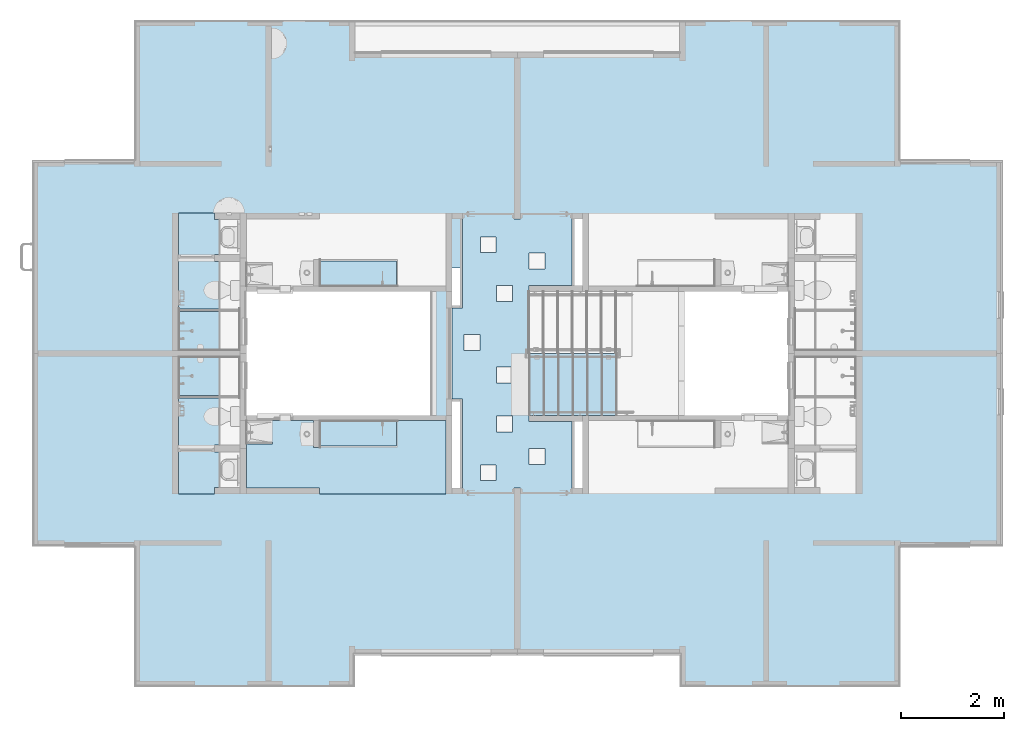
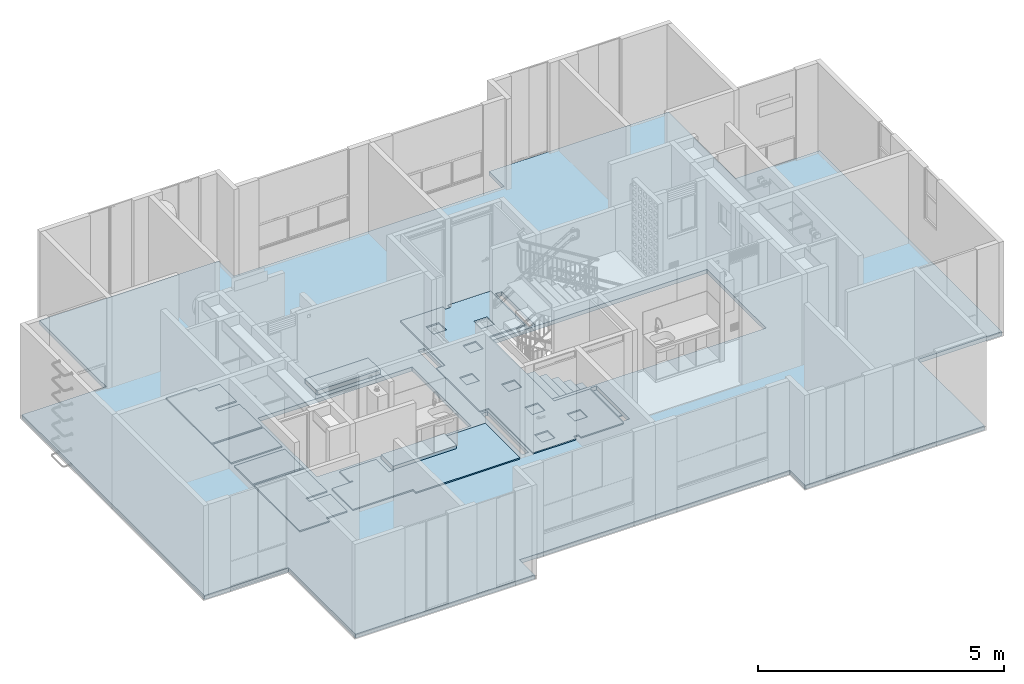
# One storey, part 1 of 51: 13 slabs.
"""IFC4 building model written with IfcOpenShell, lengths in metres."""

from ifc_helpers import new_model, entity, si_unit, converted_unit, derived_unit, direction, frame, origin, place, context, subcontext, project, spatial, indexed_curve, outline, extrude, material, constituent, constituent_set, type_object, element, save


model = new_model("IFC4")

# Units and contexts
model_context = context("Model", 3, precision=1e-05, world=origin(), true_north=direction((6.123031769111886e-17, 1.0)))
body_context = subcontext(model_context, "Body", "Model", "MODEL_VIEW")
ifc_project = project(units=[si_unit("LENGTHUNIT", "METRE"), si_unit("AREAUNIT", "SQUARE_METRE"), si_unit("VOLUMEUNIT", "CUBIC_METRE"), converted_unit("PLANEANGLEUNIT", "DEGREE", entity("IfcRatioMeasure", 0.017453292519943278), si_unit("PLANEANGLEUNIT", "RADIAN"), dimensions=[0, 0, 0, 0, 0, 0, 0]), si_unit("MASSUNIT", "GRAM", prefix="KILO"), derived_unit("MASSDENSITYUNIT", [(si_unit("MASSUNIT", "GRAM", prefix="KILO"), 1), (si_unit("LENGTHUNIT", "METRE"), -3)]), derived_unit("IONCONCENTRATIONUNIT", [(si_unit("MASSUNIT", "GRAM", prefix="KILO"), 1), (si_unit("LENGTHUNIT", "METRE"), -3)]), derived_unit("MOMENTOFINERTIAUNIT", [(si_unit("LENGTHUNIT", "METRE"), 4)]), si_unit("TIMEUNIT", "SECOND"), si_unit("FREQUENCYUNIT", "HERTZ"), si_unit("THERMODYNAMICTEMPERATUREUNIT", "DEGREE_CELSIUS"), derived_unit("THERMALTRANSMITTANCEUNIT", [(si_unit("MASSUNIT", "GRAM", prefix="KILO"), 1), (si_unit("THERMODYNAMICTEMPERATUREUNIT", "KELVIN"), -1), (si_unit("TIMEUNIT", "SECOND"), -3)]), derived_unit("THERMALCONDUCTANCEUNIT", [(si_unit("MASSUNIT", "GRAM", prefix="KILO"), 1), (si_unit("THERMODYNAMICTEMPERATUREUNIT", "KELVIN"), -1), (si_unit("TIMEUNIT", "SECOND"), -3), (si_unit("LENGTHUNIT", "METRE"), 1)]), derived_unit("VOLUMETRICFLOWRATEUNIT", [(si_unit("LENGTHUNIT", "METRE"), 3), (si_unit("TIMEUNIT", "SECOND"), -1)]), derived_unit("MASSFLOWRATEUNIT", [(si_unit("MASSUNIT", "GRAM", prefix="KILO"), 1), (si_unit("TIMEUNIT", "SECOND"), -1)]), derived_unit("ROTATIONALFREQUENCYUNIT", [(si_unit("TIMEUNIT", "SECOND"), -1)]), si_unit("ELECTRICCURRENTUNIT", "AMPERE"), si_unit("ELECTRICVOLTAGEUNIT", "VOLT"), si_unit("POWERUNIT", "WATT"), si_unit("FORCEUNIT", "NEWTON", prefix="KILO"), si_unit("ILLUMINANCEUNIT", "LUX"), si_unit("LUMINOUSFLUXUNIT", "LUMEN"), si_unit("LUMINOUSINTENSITYUNIT", "CANDELA"), derived_unit("USERDEFINED", [(si_unit("MASSUNIT", "GRAM", prefix="KILO"), -1), (si_unit("LENGTHUNIT", "METRE"), -2), (si_unit("TIMEUNIT", "SECOND"), 3), (si_unit("LUMINOUSFLUXUNIT", "LUMEN"), 1)]), derived_unit("USERDEFINED", [(si_unit("MASSUNIT", "GRAM", prefix="KILO"), 1), (si_unit("TIMEUNIT", "SECOND"), -3), (si_unit("LENGTHUNIT", "METRE"), 3), (si_unit("ELECTRICCURRENTUNIT", "AMPERE"), -2)]), derived_unit("SOUNDPOWERUNIT", [(si_unit("MASSUNIT", "GRAM", prefix="KILO"), 1), (si_unit("TIMEUNIT", "SECOND"), -3), (si_unit("LENGTHUNIT", "METRE"), 2)]), derived_unit("SOUNDPRESSUREUNIT", [(si_unit("MASSUNIT", "GRAM", prefix="KILO"), 1), (si_unit("LENGTHUNIT", "METRE"), -1), (si_unit("TIMEUNIT", "SECOND"), -2)]), derived_unit("LINEARVELOCITYUNIT", [(si_unit("LENGTHUNIT", "METRE"), 1), (si_unit("TIMEUNIT", "SECOND"), -1)]), si_unit("PRESSUREUNIT", "PASCAL"), derived_unit("USERDEFINED", [(si_unit("MASSUNIT", "GRAM", prefix="KILO"), 1), (si_unit("LENGTHUNIT", "METRE"), -2), (si_unit("TIMEUNIT", "SECOND"), -2)]), derived_unit("LINEARFORCEUNIT", [(si_unit("MASSUNIT", "GRAM", prefix="KILO"), 1), (si_unit("TIMEUNIT", "SECOND"), -2)]), derived_unit("PLANARFORCEUNIT", [(si_unit("MASSUNIT", "GRAM", prefix="KILO"), 1), (si_unit("LENGTHUNIT", "METRE"), -1), (si_unit("TIMEUNIT", "SECOND"), -2)]), derived_unit("SPECIFICHEATCAPACITYUNIT", [(si_unit("THERMODYNAMICTEMPERATUREUNIT", "KELVIN"), -1), (si_unit("LENGTHUNIT", "METRE"), 2), (si_unit("TIMEUNIT", "SECOND"), -2)]), derived_unit("HEATINGVALUEUNIT", [(si_unit("LENGTHUNIT", "METRE"), 2), (si_unit("TIMEUNIT", "SECOND"), -2)]), derived_unit("VAPORPERMEABILITYUNIT", [(si_unit("LENGTHUNIT", "METRE"), -1), (si_unit("TIMEUNIT", "SECOND"), 1)]), derived_unit("DYNAMICVISCOSITYUNIT", [(si_unit("MASSUNIT", "GRAM", prefix="KILO"), 1), (si_unit("TIMEUNIT", "SECOND"), -1), (si_unit("LENGTHUNIT", "METRE"), -1)]), derived_unit("THERMALEXPANSIONCOEFFICIENTUNIT", [(si_unit("THERMODYNAMICTEMPERATUREUNIT", "KELVIN"), -1)]), derived_unit("MODULUSOFELASTICITYUNIT", [(si_unit("MASSUNIT", "GRAM", prefix="KILO"), 1), (si_unit("LENGTHUNIT", "METRE"), -1), (si_unit("TIMEUNIT", "SECOND"), -2)]), derived_unit("ISOTHERMALMOISTURECAPACITYUNIT", [(si_unit("LENGTHUNIT", "METRE"), 3), (si_unit("MASSUNIT", "GRAM", prefix="KILO"), -1)]), derived_unit("MOISTUREDIFFUSIVITYUNIT", [(si_unit("TIMEUNIT", "SECOND"), -1), (si_unit("LENGTHUNIT", "METRE"), 2)])], contexts=[model_context])

# Site, building, storey
site_placement = place(None, origin())
site = spatial("IfcSite", under=ifc_project, at=site_placement, Name="Default", CompositionType="ELEMENT")
building_placement = place(site_placement, origin())
building = spatial("IfcBuilding", under=site, at=building_placement, CompositionType="ELEMENT")
storey_placement = place(building_placement, frame((0.0, 0.0, 2.350000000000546)))
storey = spatial("IfcBuildingStorey", under=building, at=storey_placement, Name="Nivel 2", CompositionType="ELEMENT", Elevation=2.350000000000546)

# Slabs
ifc_material_1 = material(Name="Ceramica 0.45m x 0.45m gris", Category="Materials")
ifc_constituent_1 = constituent(ifc_material_1, Name="Ceramica 0.45m x 0.45m gris", Category="Materials")
ifc_material_2 = material(Name="Mortero de pega", Category="Materials")
ifc_constituent_2 = constituent(ifc_material_2, Name="Mortero de pega", Category="Materials")
ifc_constituent_set_1 = constituent_set(constituents=[ifc_constituent_1, ifc_constituent_2], Name="Floor:C2030.20 - 0.45 x 0.45 - Enchape cerámico - Mortero de Pega + Cerámica gris")
slab_type_1 = type_object("IfcSlabType", Name="Floor:C2030.20 - 0.45 x 0.45 - Enchape cerámico - Mortero de Pega + Cerámica gris", PredefinedType="FLOOR", material=ifc_constituent_set_1)
slab_1_placement = place(storey_placement, origin())
element("IfcSlab", 1, at=slab_1_placement, inside=storey, type_object=slab_type_1, material=ifc_constituent_set_1, Name="Floor:C2030.20 - 0.45 x 0.45 - Enchape cerámico - Mortero de Pega + Cerámica gris", ObjectType="Floor:C2030.20 - 0.45 x 0.45 - Enchape cerámico - Mortero de Pega + Cerámica gris", PredefinedType="FLOOR", context=body_context, shape_type="SweptSolid", body=[
    extrude(outline(indexed_curve([(-0.5924994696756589, -0.37499998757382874), (0.5924994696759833, -0.37499998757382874), (0.5924994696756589, 0.37499998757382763), (-0.5924994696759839, 0.37499998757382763), (-0.5924994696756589, -0.37499998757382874)], self_intersect=False)), frame((3.37000052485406, -5.990000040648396, 0.020000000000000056), z_axis=(0.0, 0.0, 1.0), x_axis=(-1.0, 0.0, 0.0)), (0.0, 0.0, 1.0), 0.009999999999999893),
    extrude(outline(indexed_curve([(-0.1950000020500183, -0.060999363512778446), (-0.19500000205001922, 0.4339995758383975), (-1.1099999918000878, 0.4339995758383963), (-1.1099999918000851, -0.7509993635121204), (0.7449999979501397, -0.7509993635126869), (0.7449999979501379, -0.05600042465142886), (0.6199999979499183, -0.056000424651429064), (0.6199999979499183, 0.4339995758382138), (-0.06000000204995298, 0.43399957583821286), (-0.06000000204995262, -0.060999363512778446), (-0.1950000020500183, -0.060999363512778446)], self_intersect=False)), frame((3.528500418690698, -4.455000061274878, 0.020000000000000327), z_axis=(0.0, 0.0, -1.0), x_axis=(0.0, 1.0, 0.0)), (0.0, 0.0, -1.0), 0.009999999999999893),
    extrude(outline(indexed_curve([(-0.7509993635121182, -1.1099999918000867), (0.4339995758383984, -1.1099999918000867), (0.43399957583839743, -0.19500000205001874), (-0.06099936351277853, -0.19500000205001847), (-0.06099936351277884, -0.06000000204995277), (0.43399957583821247, -0.06000000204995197), (0.43399957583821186, 0.6199999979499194), (-0.05600042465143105, 0.6199999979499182), (-0.056000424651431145, 0.7449999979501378), (-0.7509993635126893, 0.7449999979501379), (-0.7509993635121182, -1.1099999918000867)], self_intersect=False)), frame((3.5285004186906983, -4.455000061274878, 0.0)), (0.0, 0.0, 1.0), 0.020000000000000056),
    extrude(outline(indexed_curve([(-0.3749999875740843, -0.5924994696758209), (0.3749999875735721, -0.5924994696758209), (0.37499998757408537, 0.5924994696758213), (-0.374999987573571, 0.5924994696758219), (-0.3749999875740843, -0.5924994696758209)], self_intersect=False)), frame((3.3700005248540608, -5.990000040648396, 0.0), z_axis=(0.0, 0.0, 1.0), x_axis=(0.0, 1.0, 0.0)), (0.0, 0.0, 1.0), 0.020000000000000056),
])
slab_2_placement = place(storey_placement, origin())
element("IfcSlab", 2, at=slab_2_placement, inside=storey, type_object=slab_type_1, material=ifc_constituent_set_1, Name="Floor:C2030.20 - 0.45 x 0.45 - Enchape cerámico - Mortero de Pega + Cerámica gris", ObjectType="Floor:C2030.20 - 0.45 x 0.45 - Enchape cerámico - Mortero de Pega + Cerámica gris", PredefinedType="FLOOR", context=body_context, shape_type="SweptSolid", body=[
    extrude(outline(indexed_curve([(-0.5924994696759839, -0.37499998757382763), (0.5924994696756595, -0.37499998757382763), (0.5924994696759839, 0.37499998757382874), (-0.5924994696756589, 0.37499998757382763), (-0.5924994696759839, -0.37499998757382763)], self_intersect=False)), frame((3.3700005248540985, -6.8600000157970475, 0.020000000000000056), z_axis=(0.0, 0.0, 1.0), x_axis=(-1.0, 0.0, 0.0)), (0.0, 0.0, 1.0), 0.009999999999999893),
    extrude(outline(indexed_curve([(0.1950000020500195, -0.4339995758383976), (1.1099999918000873, -0.4339995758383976), (1.1099999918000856, 0.7509993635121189), (-0.7449999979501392, 0.7509993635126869), (-0.7449999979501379, 0.05600042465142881), (-0.6199999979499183, 0.056000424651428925), (-0.6199999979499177, -0.4339995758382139), (0.0600000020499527, -0.4339995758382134), (0.060000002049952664, 0.06099936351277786), (0.19500000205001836, 0.06099936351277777), (0.1950000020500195, -0.4339995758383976)], self_intersect=False)), frame((3.528500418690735, -8.394999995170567, 0.020000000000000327), z_axis=(0.0, 0.0, 1.0), x_axis=(0.0, 1.0, 0.0)), (0.0, 0.0, 1.0), 0.009999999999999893),
    extrude(outline(indexed_curve([(-1.1099999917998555, -0.7509993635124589), (0.7449999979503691, -0.7509993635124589), (0.7449999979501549, -0.05600042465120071), (0.6199999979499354, -0.056000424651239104), (0.6199999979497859, 0.43399957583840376), (-0.06000000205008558, 0.43399957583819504), (-0.06000000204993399, -0.06099936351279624), (-0.19500000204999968, -0.060999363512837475), (-0.19500000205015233, 0.4339995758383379), (-1.1099999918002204, 0.43399957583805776), (-1.1099999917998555, -0.7509993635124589)], self_intersect=False)), frame((3.528500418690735, -8.394999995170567, 0.0), z_axis=(0.0, 0.0, 1.0), x_axis=(0.0, -1.0, 0.0)), (0.0, 0.0, 1.0), 0.020000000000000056),
    extrude(outline(indexed_curve([(-0.5924994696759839, -0.37499998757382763), (0.5924994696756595, -0.37499998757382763), (0.5924994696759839, 0.37499998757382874), (-0.5924994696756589, 0.37499998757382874), (-0.5924994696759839, -0.37499998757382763)], self_intersect=False)), frame((3.3700005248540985, -6.8600000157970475, 0.0), z_axis=(0.0, 0.0, 1.0), x_axis=(-1.0, 0.0, 0.0)), (0.0, 0.0, 1.0), 0.020000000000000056),
])
slab_3_placement = place(storey_placement, origin())
element("IfcSlab", 3, at=slab_3_placement, inside=storey, type_object=slab_type_1, material=ifc_constituent_set_1, Name="Floor:C2030.20 - 0.45 x 0.45 - Enchape cerámico - Mortero de Pega + Cerámica gris", ObjectType="Floor:C2030.20 - 0.45 x 0.45 - Enchape cerámico - Mortero de Pega + Cerámica gris", PredefinedType="FLOOR", context=body_context, shape_type="SweptSolid", body=[
    extrude(outline(indexed_curve([(-0.06375012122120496, -0.8409999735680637), (2.381249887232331, -0.8409999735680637), (2.381249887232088, 0.5734999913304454), (1.4212498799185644, 0.5734999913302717), (1.421249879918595, 0.08399999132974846), (-0.0637501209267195, 0.08399999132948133), (-0.06375012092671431, 0.053999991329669), (-0.17875012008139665, 0.05399999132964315), (-0.17875012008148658, 0.5734999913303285), (-1.0387496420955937, 0.5734999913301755), (-1.0387496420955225, 0.15799999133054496), (-0.9787496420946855, 0.15799999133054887), (-0.9787496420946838, 0.12399999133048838), (-1.4787501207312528, 0.1239999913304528), (-1.478750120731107, -0.7259999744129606), (-0.06375012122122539, -0.7259999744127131), (-0.06375012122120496, -0.8409999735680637)], self_intersect=False)), frame((5.566250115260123, -8.29900001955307, 0.019999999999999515)), (0.0, 0.0, 1.0), 0.009999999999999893),
    extrude(outline(indexed_curve([(-0.06375012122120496, -0.8409999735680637), (2.381249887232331, -0.8409999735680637), (2.381249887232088, 0.5734999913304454), (1.4212498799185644, 0.5734999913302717), (1.421249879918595, 0.08399999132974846), (-0.0637501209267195, 0.08399999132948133), (-0.06375012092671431, 0.053999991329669), (-0.17875012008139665, 0.05399999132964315), (-0.17875012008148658, 0.5734999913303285), (-1.0387496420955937, 0.5734999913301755), (-1.038749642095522, 0.15799999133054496), (-0.9787496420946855, 0.15799999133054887), (-0.9787496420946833, 0.12399999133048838), (-1.4787501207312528, 0.1239999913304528), (-1.4787501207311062, -0.7259999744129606), (-0.06375012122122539, -0.7259999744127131), (-0.06375012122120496, -0.8409999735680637)], self_intersect=False)), frame((5.566250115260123, -8.29900001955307, 0.0)), (0.0, 0.0, 1.0), 0.020000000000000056),
])
ifc_material_3 = material(Name="Concreto (Aire)", Category="Materials")
slab_type_2 = type_object("IfcSlabType", Name="Floor:B1010 - 0.10m - Placa Entrepiso - Concreto", PredefinedType="FLOOR", material=ifc_material_3)
slab_4_placement = place(storey_placement, origin())
element("IfcSlab", 4, at=slab_4_placement, inside=storey, type_object=slab_type_2, material=ifc_material_3, Name="Floor:B1010 - 0.10m - Placa Entrepiso - Concreto", ObjectType="Floor:B1010 - 0.10m - Placa Entrepiso - Concreto", PredefinedType="FLOOR", context=body_context, shape_type="SweptSolid", body=[
    extrude(outline(indexed_curve([(-7.375000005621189, -6.415000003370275), (-3.170000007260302, -6.415000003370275), (-3.170000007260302, -5.8000000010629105), (3.1700000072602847, -5.8000000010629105), (3.1700000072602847, -6.415000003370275), (7.3750000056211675, -6.415000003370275), (7.3750000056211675, -3.6999999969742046), (9.350000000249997, -3.699999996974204), (9.350000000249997, 3.6999999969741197), (7.375000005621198, 3.6999999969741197), (7.375000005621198, 6.415000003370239), (3.1700000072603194, 6.415000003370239), (3.1700000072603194, 5.800000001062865), (-3.170000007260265, 5.800000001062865), (-3.170000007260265, 6.415000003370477), (-7.375000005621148, 6.415000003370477), (-7.375000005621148, 3.6999999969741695), (-9.350000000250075, 3.6999999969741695), (-9.350000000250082, -3.6999999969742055), (-7.375000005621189, -3.6999999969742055), (-7.375000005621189, -6.415000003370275)], self_intersect=False), holes=[indexed_curve([(5.265000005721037, -1.2000000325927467), (1.6499999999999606, -1.2000000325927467), (1.6499999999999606, 1.199500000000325), (5.265000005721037, 1.199500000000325), (5.265000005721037, -1.2000000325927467)], self_intersect=False), indexed_curve([(-1.2599999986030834, -2.5999999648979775), (-1.2599999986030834, -1.250000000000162), (-1.1099999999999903, -1.250000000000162), (-1.1099999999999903, -2.5999999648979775), (-1.2599999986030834, -2.5999999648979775)], self_intersect=False), indexed_curve([(-1.2599999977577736, 1.2500000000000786), (-1.2599999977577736, 2.599999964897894), (-1.1099999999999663, 2.599999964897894), (-1.1099999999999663, 1.2500000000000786), (-1.2599999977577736, 1.2500000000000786)], self_intersect=False), indexed_curve([(1.2599999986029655, 0.9299999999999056), (1.1100000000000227, 0.9299999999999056), (1.1100000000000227, 2.5999999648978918), (1.2599999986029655, 2.5999999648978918), (1.2599999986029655, 0.9299999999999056)], self_intersect=False), indexed_curve([(-0.23000000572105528, -1.2000000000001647), (-3.375890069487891, -1.2000000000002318), (-5.265000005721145, -1.2000000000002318), (-5.265000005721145, 1.2000000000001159), (-3.245045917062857, 1.2000000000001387), (-0.23000000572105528, 1.2000000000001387), (-0.23000000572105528, -1.2000000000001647)], self_intersect=False), indexed_curve([(1.2599999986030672, -1.6483203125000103), (1.110000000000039, -1.6483203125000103), (1.110000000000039, -0.9299999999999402), (1.2599999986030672, -0.9299999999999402), (1.2599999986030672, -1.6483203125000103)], self_intersect=False)]), frame((9.322500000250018, -6.425000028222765, -0.09999999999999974), z_axis=(0.0, 0.0, 1.0), x_axis=(-1.0, 0.0, 0.0)), (0.0, 0.0, 1.0), 0.1),
])
ifc_material_4 = material(Name="PISO GRES SAHARA 30X30", Category="Materials")
ifc_constituent_3 = constituent(ifc_material_4, Name="PISO GRES SAHARA 30X30", Category="Materials")
ifc_constituent_4 = constituent(ifc_material_2, Name="Mortero de pega", Category="Materials")
ifc_constituent_set_2 = constituent_set(constituents=[ifc_constituent_3, ifc_constituent_4], Name="Floor:C2030.20 - 30x30- Piso en gres - Gres")
slab_type_3 = type_object("IfcSlabType", Name="Floor:C2030.20 - 30x30- Piso en gres - Gres", PredefinedType="FLOOR", material=ifc_constituent_set_2)
slab_5_placement = place(storey_placement, origin())
element("IfcSlab", 5, at=slab_5_placement, inside=storey, type_object=slab_type_3, material=ifc_constituent_set_2, Name="Floor:C2030.20 - 30x30- Piso en gres - Gres", ObjectType="Floor:C2030.20 - 30x30- Piso en gres - Gres", PredefinedType="FLOOR", context=body_context, shape_type="SweptSolid", body=[
    extrude(outline(indexed_curve([(0.9570000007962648, -0.8799999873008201), (1.15699999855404, -0.8799999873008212), (1.15699999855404, 0.8800000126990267), (0.9570000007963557, 0.8800000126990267), (0.9570000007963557, 2.6969999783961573), (-0.04299999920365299, 2.6969999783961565), (-0.042999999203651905, 2.5999999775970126), (-0.16299999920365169, 2.5999999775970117), (-0.1629999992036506, 2.6969999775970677), (-1.16299999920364, 2.6969999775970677), (-1.16299999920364, 1.3150000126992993), (-0.33300000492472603, 1.3150000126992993), (-0.333000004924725, -1.3149999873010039), (-1.1629999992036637, -1.3149999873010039), (-1.1629999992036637, -2.697000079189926), (-0.16299999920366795, -2.697000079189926), (-0.16299999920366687, -2.599999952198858), (-0.04299999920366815, -2.599999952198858), (-0.042999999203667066, -2.6969999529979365), (0.9570000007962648, -2.6969999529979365), (0.9570000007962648, -0.8799999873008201)], self_intersect=False), holes=[indexed_curve([(0.30699999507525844, 2.1550000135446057), (0.30699999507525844, 2.4600000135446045), (0.6119999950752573, 2.4600000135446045), (0.6119999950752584, 2.1550000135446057), (0.30699999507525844, 2.1550000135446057)], self_intersect=False), indexed_curve([(-0.3330000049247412, 2.14500001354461), (-0.3330000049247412, 1.840000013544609), (-0.6380000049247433, 1.840000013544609), (-0.6380000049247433, 2.14500001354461), (-0.3330000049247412, 2.14500001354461)], self_intersect=False), indexed_curve([(0.2969999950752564, 1.515000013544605), (0.29699999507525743, 1.2100000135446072), (-0.008000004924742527, 1.2100000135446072), (-0.008000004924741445, 1.515000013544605), (0.2969999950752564, 1.515000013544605)], self_intersect=False), indexed_curve([(0.6219999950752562, -0.36499998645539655), (0.6219999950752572, -0.059999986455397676), (0.9269999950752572, -0.05999998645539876), (0.9269999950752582, -0.36499998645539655), (0.6219999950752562, -0.36499998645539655)], self_intersect=False), indexed_curve([(-0.008000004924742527, 0.2650000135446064), (-0.008000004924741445, 0.5700000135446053), (0.29699999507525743, 0.5700000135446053), (0.29699999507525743, 0.2650000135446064), (-0.008000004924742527, 0.2650000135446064)], self_intersect=False), indexed_curve([(-0.008000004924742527, -1.309999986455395), (-0.008000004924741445, -1.004999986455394), (0.29699999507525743, -1.004999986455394), (0.29699999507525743, -1.309999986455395), (-0.008000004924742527, -1.309999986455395)], self_intersect=False), indexed_curve([(-0.3330000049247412, -1.63499998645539), (-0.3330000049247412, -1.9399999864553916), (-0.6380000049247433, -1.9399999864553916), (-0.6380000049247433, -1.63499998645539), (-0.3330000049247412, -1.63499998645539)], self_intersect=False), indexed_curve([(0.30699999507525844, -2.2549999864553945), (0.30699999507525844, -1.9499999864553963), (0.6119999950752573, -1.949999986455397), (0.6119999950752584, -2.2549999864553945), (0.30699999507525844, -2.2549999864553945)], self_intersect=False)]), frame((9.21950000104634, -6.425000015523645, 0.019999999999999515), z_axis=(0.0, 0.0, 1.0), x_axis=(-1.0, 0.0, 0.0)), (0.0, 0.0, 1.0), 0.009999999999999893),
    extrude(outline(indexed_curve([(0.9570000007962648, -0.8799999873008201), (1.15699999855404, -0.8799999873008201), (1.15699999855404, 0.8800000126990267), (0.9570000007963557, 0.8800000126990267), (0.9570000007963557, 2.6969999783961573), (-0.04299999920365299, 2.6969999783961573), (-0.04299999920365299, 2.5999999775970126), (-0.16299999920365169, 2.5999999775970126), (-0.16299999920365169, 2.6969999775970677), (-1.16299999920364, 2.6969999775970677), (-1.16299999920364, 1.3150000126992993), (-0.33300000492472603, 1.3150000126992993), (-0.33300000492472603, -1.3149999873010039), (-1.1629999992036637, -1.3149999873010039), (-1.1629999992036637, -2.697000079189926), (-0.16299999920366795, -2.697000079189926), (-0.16299999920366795, -2.599999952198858), (-0.04299999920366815, -2.599999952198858), (-0.04299999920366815, -2.6969999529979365), (0.9570000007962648, -2.6969999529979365), (0.9570000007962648, -0.8799999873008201)], self_intersect=False), holes=[indexed_curve([(0.3069999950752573, -2.2549999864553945), (0.3069999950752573, -1.9499999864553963), (0.6119999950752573, -1.9499999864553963), (0.6119999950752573, -2.2549999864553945), (0.3069999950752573, -2.2549999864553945)], self_intersect=False), indexed_curve([(-0.3330000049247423, -1.63499998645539), (-0.3330000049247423, -1.9399999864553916), (-0.6380000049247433, -1.9399999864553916), (-0.6380000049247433, -1.63499998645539), (-0.3330000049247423, -1.63499998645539)], self_intersect=False), indexed_curve([(-0.008000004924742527, -1.309999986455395), (-0.008000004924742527, -1.004999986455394), (0.29699999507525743, -1.004999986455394), (0.29699999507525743, -1.309999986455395), (-0.008000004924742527, -1.309999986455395)], self_intersect=False), indexed_curve([(-0.008000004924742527, 0.2650000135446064), (-0.008000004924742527, 0.5700000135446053), (0.29699999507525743, 0.5700000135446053), (0.29699999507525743, 0.2650000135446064), (-0.008000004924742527, 0.2650000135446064)], self_intersect=False), indexed_curve([(0.6219999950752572, -0.36499998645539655), (0.6219999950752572, -0.059999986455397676), (0.9269999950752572, -0.059999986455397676), (0.9269999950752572, -0.36499998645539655), (0.6219999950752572, -0.36499998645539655)], self_intersect=False), indexed_curve([(0.29699999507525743, 1.515000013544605), (0.29699999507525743, 1.2100000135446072), (-0.008000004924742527, 1.2100000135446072), (-0.008000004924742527, 1.515000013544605), (0.29699999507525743, 1.515000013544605)], self_intersect=False), indexed_curve([(-0.3330000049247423, 2.14500001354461), (-0.3330000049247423, 1.840000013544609), (-0.6380000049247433, 1.840000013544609), (-0.6380000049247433, 2.14500001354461), (-0.3330000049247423, 2.14500001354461)], self_intersect=False), indexed_curve([(0.3069999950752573, 2.1550000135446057), (0.3069999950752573, 2.4600000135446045), (0.6119999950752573, 2.4600000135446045), (0.6119999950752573, 2.1550000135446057), (0.3069999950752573, 2.1550000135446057)], self_intersect=False)]), frame((9.21950000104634, -6.425000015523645, 0.0), z_axis=(0.0, 0.0, 1.0), x_axis=(-1.0, 0.0, 0.0)), (0.0, 0.0, 1.0), 0.020000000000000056),
])
ifc_material_5 = material(Name="escalgres", Category="Materials")
ifc_constituent_5 = constituent(ifc_material_5, Name="escalgres", Category="Materials")
ifc_constituent_6 = constituent(ifc_material_2, Name="Mortero de pega", Category="Materials")
ifc_constituent_set_3 = constituent_set(constituents=[ifc_constituent_5, ifc_constituent_6], Name="Floor:C2030.20 -30x30- Escalgres - Gres")
slab_type_4 = type_object("IfcSlabType", Name="Floor:C2030.20 -30x30- Escalgres - Gres", PredefinedType="FLOOR", material=ifc_constituent_set_3)
slab_6_placement = place(storey_placement, origin())
element("IfcSlab", 6, at=slab_6_placement, inside=storey, type_object=slab_type_4, material=ifc_constituent_set_3, Name="Floor:C2030.20 -30x30- Escalgres - Gres", ObjectType="Floor:C2030.20 -30x30- Escalgres - Gres", PredefinedType="FLOOR", context=body_context, shape_type="SweptSolid", body=[
    extrude(outline(indexed_curve([(-0.14749999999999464, -0.6000000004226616), (0.1474999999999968, -0.6000000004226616), (0.14749999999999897, 0.6000000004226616), (-0.14749999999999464, 0.6000000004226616), (-0.14749999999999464, -0.6000000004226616)], self_intersect=False)), frame((11.10000000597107, -7.025000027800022, -0.9871428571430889)), (0.0, 0.0, 1.0), 0.009999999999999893),
    extrude(outline(indexed_curve([(-0.6000000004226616, -0.1474999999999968), (0.6000000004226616, -0.1474999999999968), (0.6000000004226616, 0.14749999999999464), (-0.6000000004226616, 0.1474999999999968), (-0.6000000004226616, -0.1474999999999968)], self_intersect=False)), frame((11.100000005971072, -7.025000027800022, -1.007142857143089), z_axis=(0.0, 0.0, 1.0), x_axis=(0.0, -1.0, 0.0)), (0.0, 0.0, 1.0), 0.020000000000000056),
])
slab_7_placement = place(storey_placement, origin())
element("IfcSlab", 7, at=slab_7_placement, inside=storey, type_object=slab_type_4, material=ifc_constituent_set_3, Name="Floor:C2030.20 -30x30- Escalgres - Gres", ObjectType="Floor:C2030.20 -30x30- Escalgres - Gres", PredefinedType="FLOOR", context=body_context, shape_type="SweptSolid", body=[
    extrude(outline(indexed_curve([(-0.14749999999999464, -0.6000000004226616), (0.1474999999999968, -0.6000000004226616), (0.14749999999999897, 0.6000000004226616), (-0.14749999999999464, 0.6000000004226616), (-0.14749999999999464, -0.6000000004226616)], self_intersect=False)), frame((10.820000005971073, -7.025000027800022, -0.8192857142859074)), (0.0, 0.0, 1.0), 0.009999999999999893),
    extrude(outline(indexed_curve([(-0.6000000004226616, -0.1474999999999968), (0.6000000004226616, -0.1474999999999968), (0.6000000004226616, 0.14749999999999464), (-0.6000000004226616, 0.1474999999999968), (-0.6000000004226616, -0.1474999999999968)], self_intersect=False)), frame((10.820000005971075, -7.025000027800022, -0.8392857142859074), z_axis=(0.0, 0.0, 1.0), x_axis=(0.0, -1.0, 0.0)), (0.0, 0.0, 1.0), 0.020000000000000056),
])
slab_8_placement = place(storey_placement, origin())
element("IfcSlab", 8, at=slab_8_placement, inside=storey, type_object=slab_type_4, material=ifc_constituent_set_3, Name="Floor:C2030.20 -30x30- Escalgres - Gres", ObjectType="Floor:C2030.20 -30x30- Escalgres - Gres", PredefinedType="FLOOR", context=body_context, shape_type="SweptSolid", body=[
    extrude(outline(indexed_curve([(-0.14749999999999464, -0.6000000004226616), (0.1474999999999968, -0.6000000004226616), (0.14749999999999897, 0.6000000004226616), (-0.14749999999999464, 0.6000000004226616), (-0.14749999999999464, -0.6000000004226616)], self_intersect=False)), frame((10.540000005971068, -7.025000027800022, -0.6514285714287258)), (0.0, 0.0, 1.0), 0.009999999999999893),
    extrude(outline(indexed_curve([(-0.6000000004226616, -0.1474999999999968), (0.6000000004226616, -0.1474999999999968), (0.6000000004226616, 0.14749999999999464), (-0.6000000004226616, 0.1474999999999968), (-0.6000000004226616, -0.1474999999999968)], self_intersect=False)), frame((10.54000000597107, -7.025000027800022, -0.6714285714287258), z_axis=(0.0, 0.0, 1.0), x_axis=(0.0, -1.0, 0.0)), (0.0, 0.0, 1.0), 0.020000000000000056),
])
slab_9_placement = place(storey_placement, origin())
element("IfcSlab", 9, at=slab_9_placement, inside=storey, type_object=slab_type_4, material=ifc_constituent_set_3, Name="Floor:C2030.20 -30x30- Escalgres - Gres", ObjectType="Floor:C2030.20 -30x30- Escalgres - Gres", PredefinedType="FLOOR", context=body_context, shape_type="SweptSolid", body=[
    extrude(outline(indexed_curve([(-0.14749999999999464, -0.6000000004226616), (0.1474999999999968, -0.6000000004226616), (0.14749999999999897, 0.6000000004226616), (-0.14749999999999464, 0.6000000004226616), (-0.14749999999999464, -0.6000000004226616)], self_intersect=False)), frame((10.26000000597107, -7.025000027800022, -0.48357142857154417)), (0.0, 0.0, 1.0), 0.009999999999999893),
    extrude(outline(indexed_curve([(-0.6000000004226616, -0.1474999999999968), (0.6000000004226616, -0.1474999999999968), (0.6000000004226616, 0.14749999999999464), (-0.6000000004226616, 0.1474999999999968), (-0.6000000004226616, -0.1474999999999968)], self_intersect=False)), frame((10.260000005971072, -7.025000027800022, -0.5035714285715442), z_axis=(0.0, 0.0, 1.0), x_axis=(0.0, -1.0, 0.0)), (0.0, 0.0, 1.0), 0.020000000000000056),
])
slab_10_placement = place(storey_placement, origin())
element("IfcSlab", 10, at=slab_10_placement, inside=storey, type_object=slab_type_4, material=ifc_constituent_set_3, Name="Floor:C2030.20 -30x30- Escalgres - Gres", ObjectType="Floor:C2030.20 -30x30- Escalgres - Gres", PredefinedType="FLOOR", context=body_context, shape_type="SweptSolid", body=[
    extrude(outline(indexed_curve([(-0.14749999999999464, -0.6000000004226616), (0.1474999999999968, -0.6000000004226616), (0.14749999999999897, 0.6000000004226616), (-0.14749999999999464, 0.6000000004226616), (-0.14749999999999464, -0.6000000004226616)], self_intersect=False)), frame((9.980000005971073, -7.025000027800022, -0.3157142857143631)), (0.0, 0.0, 1.0), 0.009999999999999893),
    extrude(outline(indexed_curve([(-0.6000000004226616, -0.1474999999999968), (0.6000000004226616, -0.1474999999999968), (0.6000000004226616, 0.14749999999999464), (-0.6000000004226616, 0.1474999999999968), (-0.6000000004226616, -0.1474999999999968)], self_intersect=False)), frame((9.980000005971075, -7.025000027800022, -0.3357142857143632), z_axis=(0.0, 0.0, 1.0), x_axis=(0.0, -1.0, 0.0)), (0.0, 0.0, 1.0), 0.020000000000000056),
])
slab_11_placement = place(storey_placement, origin())
element("IfcSlab", 11, at=slab_11_placement, inside=storey, type_object=slab_type_4, material=ifc_constituent_set_3, Name="Floor:C2030.20 -30x30- Escalgres - Gres", ObjectType="Floor:C2030.20 -30x30- Escalgres - Gres", PredefinedType="FLOOR", context=body_context, shape_type="SweptSolid", body=[
    extrude(outline(indexed_curve([(-0.1474999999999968, -0.6000000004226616), (0.14749999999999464, -0.6000000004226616), (0.1474999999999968, 0.6000000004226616), (-0.1474999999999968, 0.6000000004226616), (-0.1474999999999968, -0.6000000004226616)], self_intersect=False)), frame((9.700000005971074, -7.025000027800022, -0.14785714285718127)), (0.0, 0.0, 1.0), 0.009999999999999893),
    extrude(outline(indexed_curve([(-0.6000000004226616, -0.1474999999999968), (0.6000000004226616, -0.1474999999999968), (0.6000000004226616, 0.14749999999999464), (-0.6000000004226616, 0.1474999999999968), (-0.6000000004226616, -0.1474999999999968)], self_intersect=False)), frame((9.700000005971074, -7.025000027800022, -0.1678571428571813), z_axis=(0.0, 0.0, 1.0), x_axis=(0.0, -1.0, 0.0)), (0.0, 0.0, 1.0), 0.020000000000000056),
])
slab_type_5 = type_object("IfcSlabType", Name="Floor:B1010 - 0.10m - Poyo - Concreto", PredefinedType="FLOOR", material=ifc_material_3)
slab_12_placement = place(storey_placement, origin())
element("IfcSlab", 12, at=slab_12_placement, inside=storey, type_object=slab_type_5, material=ifc_material_3, Name="Floor:B1010 - 0.10m - Poyo - Concreto", ObjectType="Floor:B1010 - 0.10m - Poyo - Concreto", PredefinedType="FLOOR", context=body_context, shape_type="SweptSolid", body=[
    extrude(outline(indexed_curve([(-0.24475000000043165, -0.7425000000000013), (0.24475000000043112, -0.7425000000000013), (0.24475000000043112, 0.7425000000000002), (-0.24475000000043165, 0.7425000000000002), (-0.24475000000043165, -0.7425000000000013)], self_intersect=False)), frame((6.2449999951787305, -4.879750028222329, 0.11000000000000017), z_axis=(0.0, 0.0, -1.0), x_axis=(0.0, 1.0, 0.0)), (0.0, 0.0, 1.0), 0.1099999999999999),
])
slab_13_placement = place(storey_placement, origin())
element("IfcSlab", 13, at=slab_13_placement, inside=storey, type_object=slab_type_5, material=ifc_material_3, Name="Floor:B1010 - 0.10m - Poyo - Concreto", ObjectType="Floor:B1010 - 0.10m - Poyo - Concreto", PredefinedType="FLOOR", context=body_context, shape_type="SweptSolid", body=[
    extrude(outline(indexed_curve([(-0.2447500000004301, -0.7424999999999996), (0.24475000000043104, -0.7424999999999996), (0.24475000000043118, 0.7425000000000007), (-0.24475000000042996, 0.7425000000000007), (-0.2447500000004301, -0.7424999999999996)], self_intersect=False)), frame((6.244999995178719, -7.970250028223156, 0.11000000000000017), z_axis=(0.0, 0.0, -1.0), x_axis=(0.0, 1.0, 0.0)), (0.0, 0.0, 1.0), 0.1099999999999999),
])

save(model, "model.ifc")
